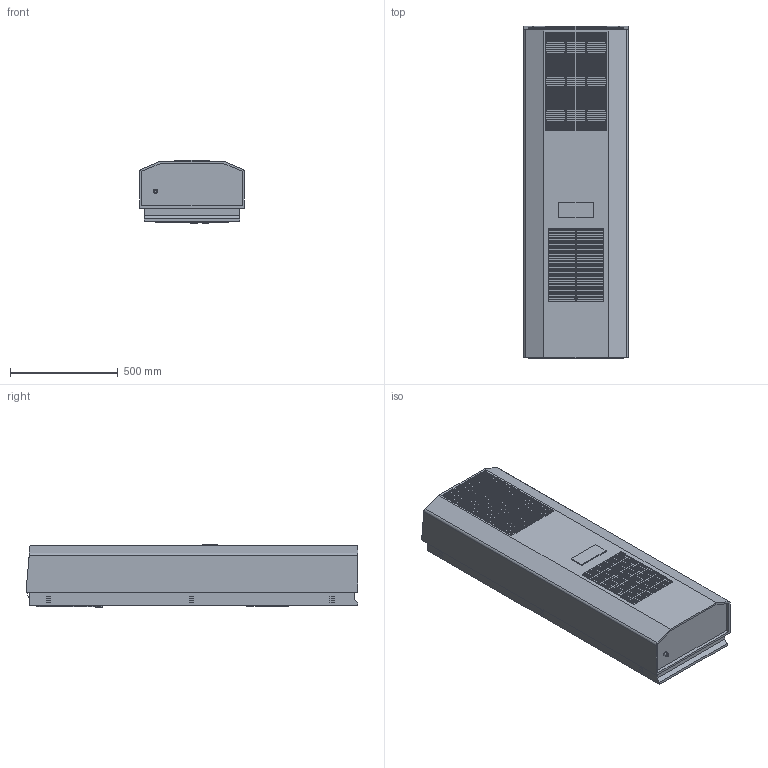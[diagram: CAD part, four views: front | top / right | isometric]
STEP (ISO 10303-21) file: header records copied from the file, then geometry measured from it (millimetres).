
FILE_DESCRIPTION (( 'STEP AP214' ), '1' );
FILE_NAME ('DTI 6X1E UL Download.STEP', '2023-09-21T09:32:38', ( '' ), ( '' ), 'SwSTEP 2.0', 'SolidWorks 2021', '' );
FILE_SCHEMA (( 'AUTOMOTIVE_DESIGN' ));
Length unit declared in the file: millimetre
Products named in the file (1): DTI 6X1E UL Download
Bounding box: 485 x 1538 x 293 mm (x, y, z)
Volume: 194439422.2 mm3; surface area: 2627213.2 mm2
Topology: 1 solids, 1 shells, 1895 faces, 4666 edges, 3110 vertices
Faces by surface type: plane 1043, cylinder 852
Entity records: 56556 total; most frequent: DIRECTION 10152, CARTESIAN_POINT 9687, ORIENTED_EDGE 9332, EDGE_CURVE 4666, AXIS2_PLACEMENT_3D 3595, VERTEX_POINT 3110, LINE 2962, VECTOR 2962
